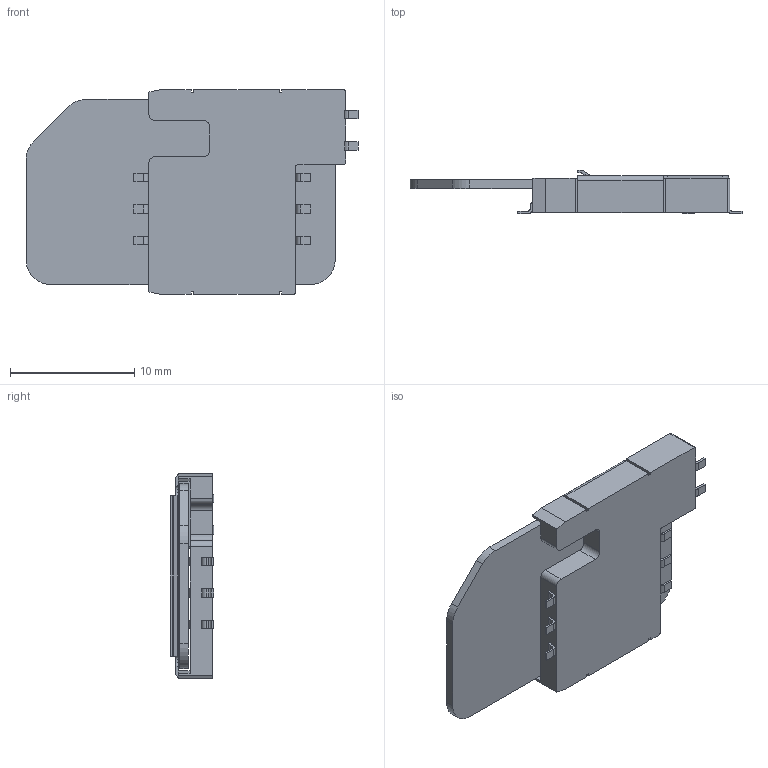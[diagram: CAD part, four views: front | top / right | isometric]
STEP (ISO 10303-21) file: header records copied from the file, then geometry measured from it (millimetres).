
FILE_DESCRIPTION (( 'STEP AP214' ), '1' );
FILE_NAME ('CCM03 MKIII.step', '2011-05-17T08:57:07', ( 'vpeshkov' ), ( 'licard' ), 'SwSTEP 2.0', 'SolidWorks 2009', '' );
FILE_SCHEMA (( 'AUTOMOTIVE_DESIGN' ));
Length unit declared in the file: millimetre
Products named in the file (1): CCM03 MKIII
Bounding box: 26.73 x 3.5 x 16.5 mm (x, y, z)
Volume: 665.4 mm3; surface area: 1634.9 mm2
Topology: 1 solids, 1 shells, 232 faces, 668 edges, 441 vertices
Faces by surface type: plane 145, cylinder 87
Entity records: 9768 total; most frequent: CARTESIAN_POINT 1368, ORIENTED_EDGE 1336, DIRECTION 1298, EDGE_CURVE 668, VECTOR 492, LINE 492, VERTEX_POINT 441, AXIS2_PLACEMENT_3D 403
